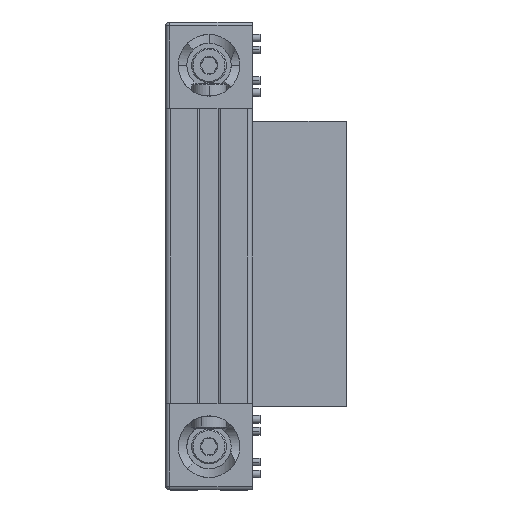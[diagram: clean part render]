
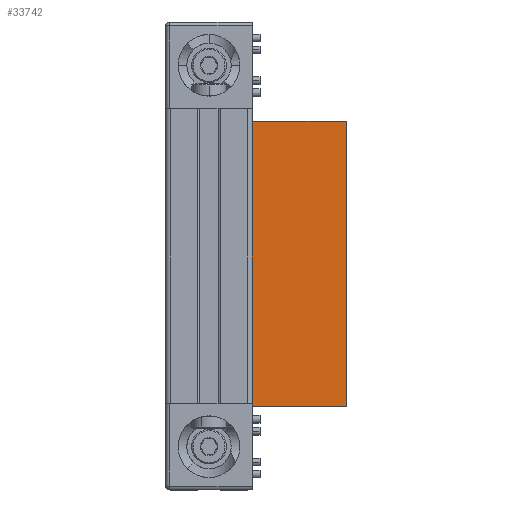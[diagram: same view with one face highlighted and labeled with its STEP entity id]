
A CAD part, left-side view. The second image highlights one B-rep face of the part: STEP entity #33742.
In plain terms, the highlighted planar face has unit normal (-1, 0, 0) as drawn and (0, 0, 1) by its records, which use the part's own axes.
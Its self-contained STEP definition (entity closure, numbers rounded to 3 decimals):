
#684 = CARTESIAN_POINT ( 'NONE',  ( -74., 0., 69.85 ) ) ;
#2923 = DIRECTION ( 'NONE',  ( 0., 0., 1. ) ) ;
#4169 = EDGE_LOOP ( 'NONE', ( #41228, #35835, #28097, #48587 ) ) ;
#4718 = EDGE_CURVE ( 'NONE', #46016, #22957, #19680, .T. ) ;
#6200 = LINE ( 'NONE', #684, #26339 ) ;
#7242 = VECTOR ( 'NONE', #7406, 1000. ) ;
#7406 = DIRECTION ( 'NONE',  ( 0., 1., 0. ) ) ;
#8308 = FACE_OUTER_BOUND ( 'NONE', #4169, .T. ) ;
#8614 = DIRECTION ( 'NONE',  ( 1., 0., 0. ) ) ;
#8644 = EDGE_CURVE ( 'NONE', #34876, #20263, #41399, .T. ) ;
#10253 = CARTESIAN_POINT ( 'NONE',  ( 74., 0., 69.85 ) ) ;
#10478 = AXIS2_PLACEMENT_3D ( 'NONE', #25602, #2923, #29397 ) ;
#10513 = CARTESIAN_POINT ( 'NONE',  ( -74., 0., 69.85 ) ) ;
#10940 = EDGE_CURVE ( 'NONE', #34876, #46016, #6200, .T. ) ;
#17570 = CARTESIAN_POINT ( 'NONE',  ( -74., 50.8, 69.85 ) ) ;
#19044 = EDGE_CURVE ( 'NONE', #20263, #22957, #33334, .T. ) ;
#19680 = LINE ( 'NONE', #26272, #7242 ) ;
#20263 = VERTEX_POINT ( 'NONE', #17570 ) ;
#21250 = VECTOR ( 'NONE', #37017, 1000. ) ;
#21624 = PLANE ( 'NONE',  #10478 ) ;
#22957 = VERTEX_POINT ( 'NONE', #39559 ) ;
#25602 = CARTESIAN_POINT ( 'NONE',  ( -74., 0., 69.85 ) ) ;
#26272 = CARTESIAN_POINT ( 'NONE',  ( 74., 0., 69.85 ) ) ;
#26339 = VECTOR ( 'NONE', #30985, 1000. ) ;
#28097 = ORIENTED_EDGE ( 'NONE', *, *, #10940, .T. ) ;
#29397 = DIRECTION ( 'NONE',  ( 1., 0., 0. ) ) ;
#30985 = DIRECTION ( 'NONE',  ( 1., 0., 0. ) ) ;
#33334 = LINE ( 'NONE', #42540, #42227 ) ;
#33742 = ADVANCED_FACE ( 'NONE', ( #8308 ), #21624, .T. ) ;
#34876 = VERTEX_POINT ( 'NONE', #41582 ) ;
#35835 = ORIENTED_EDGE ( 'NONE', *, *, #8644, .F. ) ;
#37017 = DIRECTION ( 'NONE',  ( 0., 1., 0. ) ) ;
#39559 = CARTESIAN_POINT ( 'NONE',  ( 74., 50.8, 69.85 ) ) ;
#41228 = ORIENTED_EDGE ( 'NONE', *, *, #19044, .F. ) ;
#41399 = LINE ( 'NONE', #10513, #21250 ) ;
#41582 = CARTESIAN_POINT ( 'NONE',  ( -74., 0., 69.85 ) ) ;
#42227 = VECTOR ( 'NONE', #8614, 1000. ) ;
#42540 = CARTESIAN_POINT ( 'NONE',  ( -74., 50.8, 69.85 ) ) ;
#46016 = VERTEX_POINT ( 'NONE', #10253 ) ;
#48587 = ORIENTED_EDGE ( 'NONE', *, *, #4718, .T. ) ;
